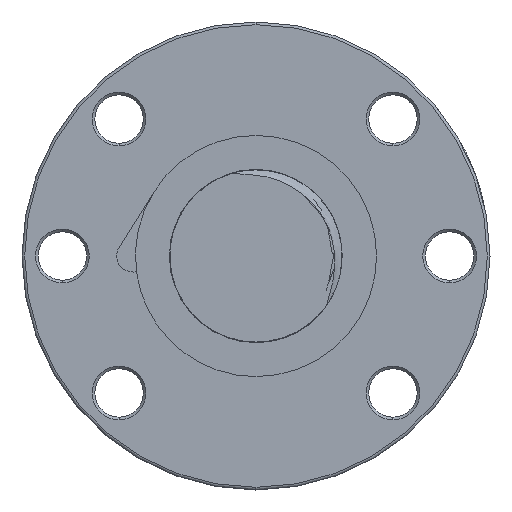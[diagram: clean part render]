
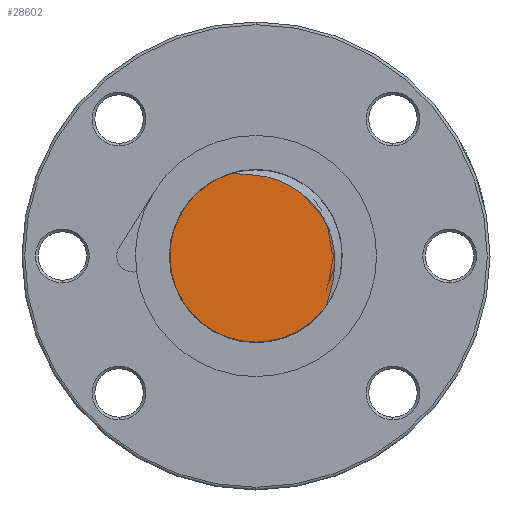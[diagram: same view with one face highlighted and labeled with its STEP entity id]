
A CAD part, left-side view. The second image highlights one B-rep face of the part: STEP entity #28602.
In plain terms, the highlighted planar face has unit normal (-1, 0, 0).
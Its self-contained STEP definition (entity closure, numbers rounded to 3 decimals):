
#570 = CARTESIAN_POINT ( 'NONE',  ( -176., 0., -16. ) ) ;
#16235 = CARTESIAN_POINT ( 'NONE',  ( -176., -13.223, -8.721 ) ) ;
#16236 = CARTESIAN_POINT ( 'NONE',  ( -176., -13.179, -8.909 ) ) ;
#16237 = CARTESIAN_POINT ( 'NONE',  ( -176., -13.16, -9.1 ) ) ;
#16238 = B_SPLINE_CURVE_WITH_KNOTS ( 'NONE', 3,
 ( #16237, #16236, #16235, #16322, #16321, #16320, #16319, #16318, #16317, #16316, #16315, #16314, #16313, #16312, #16311, #16310, #16309, #16308, #16307, #16306, #16305, #16304, #16303, #16302, #16301, #16300, #16299, #16298, #16297, #16296, #16295, #16294, #16293, #16292, #16291, #16289, #16288, #16287, #16286, #16285, #16284, #16283 ),
 .UNSPECIFIED., .F., .F.,
 ( 4, 2, 2, 2, 2, 2, 2, 2, 2, 2, 2, 2, 2, 2, 2, 2, 2, 2, 2, 2, 4 ),
 ( 0.005, 0.005, 0.006, 0.007, 0.009, 0.014, 0.015, 0.016, 0.019, 0.02, 0.021, 0.023, 0.025, 0.028, 0.03, 0.032, 0.037, 0.039, 0.04, 0.041, 0.041 ),
 .UNSPECIFIED. ) ;
#16283 = CARTESIAN_POINT ( 'NONE',  ( -176., 4.588, 15.328 ) ) ;
#16284 = CARTESIAN_POINT ( 'NONE',  ( -176., 4.397, 15.287 ) ) ;
#16285 = CARTESIAN_POINT ( 'NONE',  ( -176., 4.205, 15.271 ) ) ;
#16286 = CARTESIAN_POINT ( 'NONE',  ( -176., 3.82, 15.246 ) ) ;
#16287 = CARTESIAN_POINT ( 'NONE',  ( -176., 3.628, 15.239 ) ) ;
#16288 = CARTESIAN_POINT ( 'NONE',  ( -176., 3.05, 15.223 ) ) ;
#16289 = CARTESIAN_POINT ( 'NONE',  ( -176., 2.664, 15.217 ) ) ;
#16291 = CARTESIAN_POINT ( 'NONE',  ( -176., 1.508, 15.18 ) ) ;
#16292 = CARTESIAN_POINT ( 'NONE',  ( -176., 0.739, 15.131 ) ) ;
#16293 = CARTESIAN_POINT ( 'NONE',  ( -176., -1.557, 14.853 ) ) ;
#16294 = CARTESIAN_POINT ( 'NONE',  ( -176., -3.041, 14.496 ) ) ;
#16295 = CARTESIAN_POINT ( 'NONE',  ( -176., -5.18, 13.659 ) ) ;
#16296 = CARTESIAN_POINT ( 'NONE',  ( -176., -5.883, 13.327 ) ) ;
#16297 = CARTESIAN_POINT ( 'NONE',  ( -176., -7.215, 12.576 ) ) ;
#16298 = CARTESIAN_POINT ( 'NONE',  ( -176., -7.851, 12.157 ) ) ;
#16299 = CARTESIAN_POINT ( 'NONE',  ( -176., -9.059, 11.23 ) ) ;
#16300 = CARTESIAN_POINT ( 'NONE',  ( -176., -9.631, 10.722 ) ) ;
#16301 = CARTESIAN_POINT ( 'NONE',  ( -176., -10.708, 9.614 ) ) ;
#16302 = CARTESIAN_POINT ( 'NONE',  ( -176., -11.2, 9.028 ) ) ;
#16303 = CARTESIAN_POINT ( 'NONE',  ( -176., -12.092, 7.793 ) ) ;
#16304 = CARTESIAN_POINT ( 'NONE',  ( -176., -12.493, 7.144 ) ) ;
#16305 = CARTESIAN_POINT ( 'NONE',  ( -176., -13.025, 6.123 ) ) ;
#16306 = CARTESIAN_POINT ( 'NONE',  ( -176., -13.191, 5.774 ) ) ;
#16307 = CARTESIAN_POINT ( 'NONE',  ( -176., -13.497, 5.067 ) ) ;
#16308 = CARTESIAN_POINT ( 'NONE',  ( -176., -13.636, 4.71 ) ) ;
#16309 = CARTESIAN_POINT ( 'NONE',  ( -176., -14.013, 3.627 ) ) ;
#16310 = CARTESIAN_POINT ( 'NONE',  ( -176., -14.211, 2.892 ) ) ;
#16311 = CARTESIAN_POINT ( 'NONE',  ( -176., -14.431, 1.767 ) ) ;
#16312 = CARTESIAN_POINT ( 'NONE',  ( -176., -14.491, 1.389 ) ) ;
#16313 = CARTESIAN_POINT ( 'NONE',  ( -176., -14.586, 0.626 ) ) ;
#16314 = CARTESIAN_POINT ( 'NONE',  ( -176., -14.62, 0.24 ) ) ;
#16315 = CARTESIAN_POINT ( 'NONE',  ( -176., -14.724, -1.673 ) ) ;
#16316 = CARTESIAN_POINT ( 'NONE',  ( -176., -14.596, -3.178 ) ) ;
#16317 = CARTESIAN_POINT ( 'NONE',  ( -176., -14.156, -5.407 ) ) ;
#16318 = CARTESIAN_POINT ( 'NONE',  ( -176., -13.965, -6.145 ) ) ;
#16319 = CARTESIAN_POINT ( 'NONE',  ( -176., -13.645, -7.248 ) ) ;
#16320 = CARTESIAN_POINT ( 'NONE',  ( -176., -13.532, -7.614 ) ) ;
#16321 = CARTESIAN_POINT ( 'NONE',  ( -176., -13.37, -8.166 ) ) ;
#16322 = CARTESIAN_POINT ( 'NONE',  ( -176., -13.317, -8.35 ) ) ;
#25376 = EDGE_CURVE ( 'NONE', #28119, #28014, #29393, .T. ) ;
#26589 = CARTESIAN_POINT ( 'NONE',  ( -176., -13.16, -9.1 ) ) ;
#26590 = DIRECTION ( 'NONE',  ( 0., 1., 0. ) ) ;
#26591 = DIRECTION ( 'NONE',  ( 1., 0., 0. ) ) ;
#26592 = CARTESIAN_POINT ( 'NONE',  ( -176., 0., 0. ) ) ;
#26593 = AXIS2_PLACEMENT_3D ( 'NONE', #26592, #26591, #26590 ) ;
#26599 = CIRCLE ( 'NONE', #26593, 16. ) ;
#27579 = DIRECTION ( 'NONE',  ( 0., 0., -1. ) ) ;
#27580 = DIRECTION ( 'NONE',  ( 1., 0., 0. ) ) ;
#27581 = CARTESIAN_POINT ( 'NONE',  ( -176., 0., 0. ) ) ;
#27582 = AXIS2_PLACEMENT_3D ( 'NONE', #27581, #27580, #27579 ) ;
#27583 = PLANE ( 'NONE',  #27582 ) ;
#27584 = FACE_OUTER_BOUND ( 'NONE', #28603, .T. ) ;
#28014 = VERTEX_POINT ( 'NONE', #30446 ) ;
#28119 = VERTEX_POINT ( 'NONE', #570 ) ;
#28310 = EDGE_CURVE ( 'NONE', #28311, #28119, #26599, .T. ) ;
#28311 = VERTEX_POINT ( 'NONE', #26589 ) ;
#28602 = ADVANCED_FACE ( 'NONE', ( #27584 ), #27583, .F. ) ;
#28603 = EDGE_LOOP ( 'NONE', ( #28604, #28680, #28682 ) ) ;
#28604 = ORIENTED_EDGE ( 'NONE', *, *, #28310, .F. ) ;
#28680 = ORIENTED_EDGE ( 'NONE', *, *, #28681, .T. ) ;
#28681 = EDGE_CURVE ( 'NONE', #28311, #28014, #16238, .T. ) ;
#28682 = ORIENTED_EDGE ( 'NONE', *, *, #25376, .F. ) ;
#29389 = DIRECTION ( 'NONE',  ( 0., 1., 0. ) ) ;
#29390 = DIRECTION ( 'NONE',  ( 1., 0., 0. ) ) ;
#29391 = CARTESIAN_POINT ( 'NONE',  ( -176., 0., 0. ) ) ;
#29392 = AXIS2_PLACEMENT_3D ( 'NONE', #29391, #29390, #29389 ) ;
#29393 = CIRCLE ( 'NONE', #29392, 16. ) ;
#30446 = CARTESIAN_POINT ( 'NONE',  ( -176., 4.588, 15.328 ) ) ;
